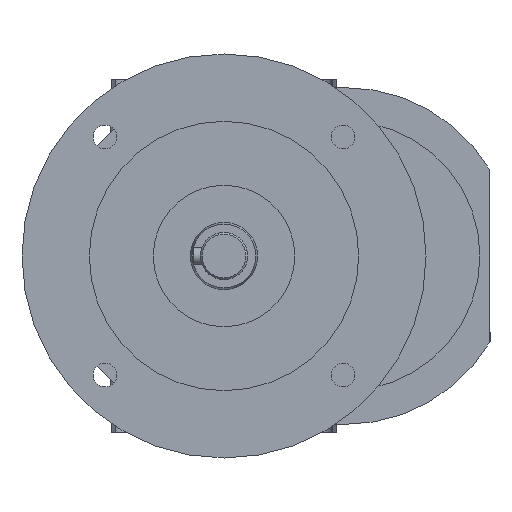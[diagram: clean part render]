
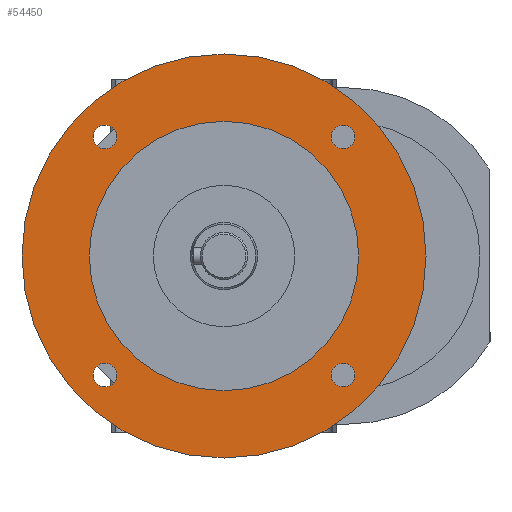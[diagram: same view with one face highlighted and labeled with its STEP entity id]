
A CAD part, left-side view. The second image highlights one B-rep face of the part: STEP entity #54450.
In plain terms, the highlighted planar face has unit normal (-1, 0, 0) as drawn and (0, 1, -0.026) by its records, which use the part's own axes.
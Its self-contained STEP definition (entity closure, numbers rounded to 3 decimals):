
#53370=CARTESIAN_POINT('',(-124.,678.799,
-140.343));
#53380=VERTEX_POINT('',#53370);
#53460=CARTESIAN_POINT('',(-4.,678.799,
-140.343));
#53470=VERTEX_POINT('',#53460);
#53500=CARTESIAN_POINT('',(-64.,678.799,
-140.343));
#53510=DIRECTION('',(0.,1.,
-0.026));
#53520=DIRECTION('',(-1.,0.,0.));
#53530=AXIS2_PLACEMENT_3D('',#53500,#53510,#53520);
#53540=CIRCLE('',#53530,60.);
#53550=EDGE_CURVE('',#53470,#53380,#53540,.T.);
#53600=CARTESIAN_POINT('',(-78.332,678.941,
-134.928));
#53610=DIRECTION('',(0.,1.,
-0.026));
#53620=DIRECTION('',(-1.,0.,0.));
#53630=AXIS2_PLACEMENT_3D('',#53600,#53610,#53620);
#53640=PLANE('',#53630);
#53650=EDGE_CURVE('',#53380,#53470,#53540,.T.);
#53660=ORIENTED_EDGE('',*,*,#53650,.T.);
#53670=ORIENTED_EDGE('',*,*,#53550,.T.);
#53680=EDGE_LOOP('',(#53670,#53660));
#53690=FACE_OUTER_BOUND('',#53680,.T.);
#53700=CARTESIAN_POINT('',(-64.,678.799,
-140.343));
#53710=DIRECTION('',(0.,1.,
-0.026));
#53720=DIRECTION('',(-1.,0.,0.));
#53730=AXIS2_PLACEMENT_3D('',#53700,#53710,#53720);
#53740=CIRCLE('',#53730,40.);
#53750=CARTESIAN_POINT('',(-24.,678.799,
-140.343));
#53760=VERTEX_POINT('',#53750);
#53770=CARTESIAN_POINT('',(-104.,678.799,
-140.343));
#53780=VERTEX_POINT('',#53770);
#53790=EDGE_CURVE('',#53760,#53780,#53740,.T.);
#53800=ORIENTED_EDGE('',*,*,#53790,.F.);
#53810=EDGE_CURVE('',#53780,#53760,#53740,.T.);
#53820=ORIENTED_EDGE('',*,*,#53810,.F.);
#53830=EDGE_LOOP('',(#53820,#53800));
#53840=FACE_BOUND('',#53830,.T.);
#53850=CARTESIAN_POINT('',(-28.645,677.873,
-175.686));
#53860=DIRECTION('',(0.,1.,
-0.026));
#53870=DIRECTION('',(-1.,0.,0.));
#53880=AXIS2_PLACEMENT_3D('',#53850,#53860,#53870);
#53890=CIRCLE('',#53880,3.5);
#53900=CARTESIAN_POINT('',(-32.145,677.873,
-175.686));
#53910=VERTEX_POINT('',#53900);
#53920=CARTESIAN_POINT('',(-25.145,677.873,
-175.686));
#53930=VERTEX_POINT('',#53920);
#53940=EDGE_CURVE('',#53910,#53930,#53890,.T.);
#53950=ORIENTED_EDGE('',*,*,#53940,.F.);
#53960=EDGE_CURVE('',#53930,#53910,#53890,.T.);
#53970=ORIENTED_EDGE('',*,*,#53960,.F.);
#53980=EDGE_LOOP('',(#53970,#53950));
#53990=FACE_BOUND('',#53980,.T.);
#54000=CARTESIAN_POINT('',(-99.355,679.724,
-105.));
#54010=DIRECTION('',(0.,1.,
-0.026));
#54020=DIRECTION('',(-1.,0.,0.));
#54030=AXIS2_PLACEMENT_3D('',#54000,#54010,#54020);
#54040=CIRCLE('',#54030,3.5);
#54050=CARTESIAN_POINT('',(-102.855,679.724,
-105.));
#54060=VERTEX_POINT('',#54050);
#54070=CARTESIAN_POINT('',(-95.855,679.724,
-105.));
#54080=VERTEX_POINT('',#54070);
#54090=EDGE_CURVE('',#54060,#54080,#54040,.T.);
#54100=ORIENTED_EDGE('',*,*,#54090,.F.);
#54110=EDGE_CURVE('',#54080,#54060,#54040,.T.);
#54120=ORIENTED_EDGE('',*,*,#54110,.F.);
#54130=EDGE_LOOP('',(#54120,#54100));
#54140=FACE_BOUND('',#54130,.T.);
#54150=CARTESIAN_POINT('',(-99.355,677.873,
-175.686));
#54160=DIRECTION('',(0.,1.,
-0.026));
#54170=DIRECTION('',(-1.,0.,0.));
#54180=AXIS2_PLACEMENT_3D('',#54150,#54160,#54170);
#54190=CIRCLE('',#54180,3.5);
#54200=CARTESIAN_POINT('',(-102.855,677.873,
-175.686));
#54210=VERTEX_POINT('',#54200);
#54220=CARTESIAN_POINT('',(-95.855,677.873,
-175.686));
#54230=VERTEX_POINT('',#54220);
#54240=EDGE_CURVE('',#54210,#54230,#54190,.T.);
#54250=ORIENTED_EDGE('',*,*,#54240,.F.);
#54260=EDGE_CURVE('',#54230,#54210,#54190,.T.);
#54270=ORIENTED_EDGE('',*,*,#54260,.F.);
#54280=EDGE_LOOP('',(#54270,#54250));
#54290=FACE_BOUND('',#54280,.T.);
#54300=CARTESIAN_POINT('',(-28.645,679.724,
-105.));
#54310=DIRECTION('',(0.,1.,
-0.026));
#54320=DIRECTION('',(-1.,0.,0.));
#54330=AXIS2_PLACEMENT_3D('',#54300,#54310,#54320);
#54340=CIRCLE('',#54330,3.5);
#54350=CARTESIAN_POINT('',(-32.145,679.724,
-105.));
#54360=VERTEX_POINT('',#54350);
#54370=CARTESIAN_POINT('',(-25.145,679.724,
-105.));
#54380=VERTEX_POINT('',#54370);
#54390=EDGE_CURVE('',#54360,#54380,#54340,.T.);
#54400=ORIENTED_EDGE('',*,*,#54390,.F.);
#54410=EDGE_CURVE('',#54380,#54360,#54340,.T.);
#54420=ORIENTED_EDGE('',*,*,#54410,.F.);
#54430=EDGE_LOOP('',(#54420,#54400));
#54440=FACE_BOUND('',#54430,.T.);
#54450=ADVANCED_FACE('',(#53690,#53840,#53990,#54140,#54290,#54440),
#53640,.T.);
